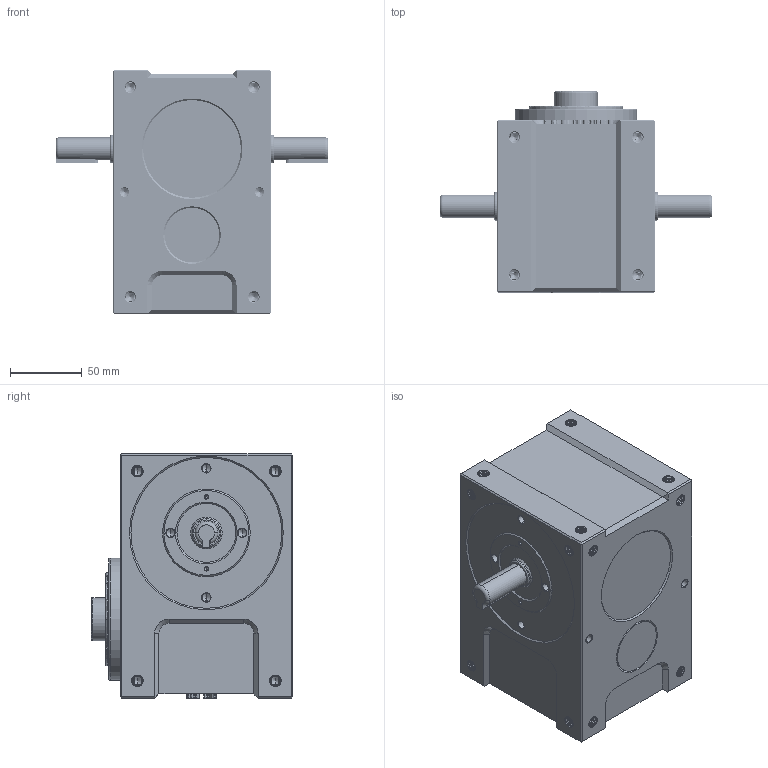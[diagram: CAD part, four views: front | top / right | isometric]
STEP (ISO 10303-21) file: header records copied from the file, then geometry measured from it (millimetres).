
FILE_DESCRIPTION (( 'STEP AP214' ), '1' );
FILE_NAME ('ER-RU60DF英锐凸轮分割器3D壳体和法兰面加销孔标准图纸(电话15062628977)AA.STEP', '2022-08-13T05:53:47', ( '微软用户' ), ( '微软中国' ), 'SwSTEP 2.0', 'SolidWorks 2017', '' );
FILE_SCHEMA (( 'AUTOMOTIVE_DESIGN' ));
Length unit declared in the file: millimetre
Products named in the file (1): ER-RU60DF英锐凸轮分割器3D壳体和法兰面加销孔标准图纸(电话15062628977)AA
Bounding box: 190 x 140 x 170 mm (x, y, z)
Volume: 2203132.8 mm3; surface area: 127402 mm2
Topology: 1 solids, 2 shells, 1972 faces, 5192 edges, 3258 vertices
Faces by surface type: cylinder 766, bspline 500, plane 378, cone 312, torus 16
Entity records: 171877 total; most frequent: CARTESIAN_POINT 131179, ORIENTED_EDGE 10196, DIRECTION 5866, EDGE_CURVE 5098, VERTEX_POINT 3258, EDGE_LOOP 2132, AXIS2_PLACEMENT_3D 2033, FACE_OUTER_BOUND 1972
